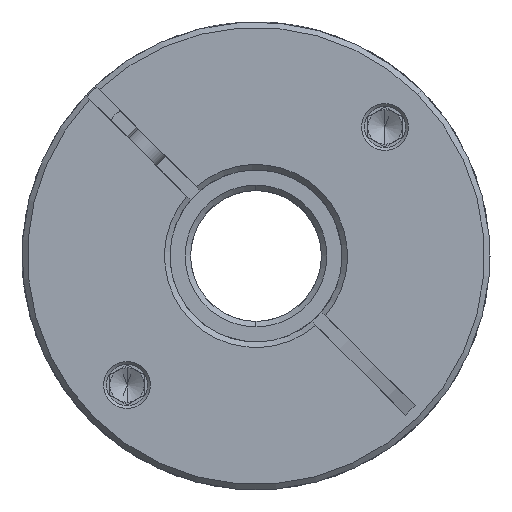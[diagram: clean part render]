
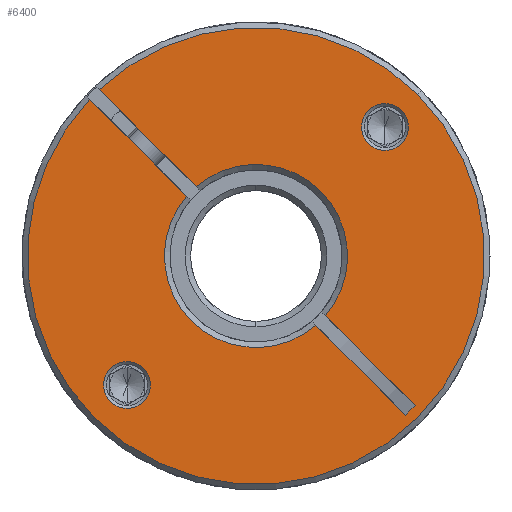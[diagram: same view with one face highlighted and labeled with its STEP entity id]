
A CAD part, front view. The second image highlights one B-rep face of the part: STEP entity #6400.
In plain terms, the highlighted planar face has unit normal (0, -1, 0).
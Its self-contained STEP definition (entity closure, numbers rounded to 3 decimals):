
#11 = DIRECTION ( 'NONE',  ( 0., -1., 0. ) ) ;
#51 = CARTESIAN_POINT ( 'NONE',  ( 18.407, -67.045, 89.142 ) ) ;
#107 = CIRCLE ( 'NONE', #4335, 33.2 ) ;
#349 = CARTESIAN_POINT ( 'NONE',  ( -19.069, -67.045, 51.666 ) ) ;
#399 = DIRECTION ( 'NONE',  ( 0.707, 0., 0.707 ) ) ;
#459 = ORIENTED_EDGE ( 'NONE', *, *, #10982, .T. ) ;
#585 = DIRECTION ( 'NONE',  ( -0.707, 0., -0.707 ) ) ;
#891 = VERTEX_POINT ( 'NONE', #11651 ) ;
#892 = EDGE_CURVE ( 'NONE', #8128, #16295, #5288, .T. ) ;
#1079 = EDGE_CURVE ( 'NONE', #16295, #17112, #13340, .T. ) ;
#1202 = CIRCLE ( 'NONE', #10937, 3.4 ) ;
#1265 = ORIENTED_EDGE ( 'NONE', *, *, #20402, .T. ) ;
#1423 = VECTOR ( 'NONE', #585, 1000. ) ;
#1654 = DIRECTION ( 'NONE',  ( 0.707, 0., 0.707 ) ) ;
#1907 = ORIENTED_EDGE ( 'NONE', *, *, #2288, .T. ) ;
#2219 = DIRECTION ( 'NONE',  ( 0.707, 0., 0.707 ) ) ;
#2288 = EDGE_CURVE ( 'NONE', #5162, #6962, #19531, .T. ) ;
#2353 = CIRCLE ( 'NONE', #12263, 13.3 ) ;
#2474 = AXIS2_PLACEMENT_3D ( 'NONE', #11533, #6613, #1654 ) ;
#2622 = VECTOR ( 'NONE', #21168, 1000. ) ;
#2691 = CARTESIAN_POINT ( 'NONE',  ( 16.003, -67.045, 86.738 ) ) ;
#2995 = DIRECTION ( 'NONE',  ( 0., 1., 0. ) ) ;
#3228 = DIRECTION ( 'NONE',  ( 0.707, 0., 0.707 ) ) ;
#3571 = LINE ( 'NONE', #9715, #15736 ) ;
#3871 = DIRECTION ( 'NONE',  ( 0., -1., 0. ) ) ;
#3958 = ORIENTED_EDGE ( 'NONE', *, *, #14006, .T. ) ;
#4335 = AXIS2_PLACEMENT_3D ( 'NONE', #17260, #17054, #7105 ) ;
#4454 = CARTESIAN_POINT ( 'NONE',  ( -26.908, -67.045, 90.758 ) ) ;
#4548 = DIRECTION ( 'NONE',  ( 0., 1., 0. ) ) ;
#4650 = DIRECTION ( 'NONE',  ( 0.707, 0., -0.707 ) ) ;
#5076 = DIRECTION ( 'NONE',  ( 0.707, 0., 0.707 ) ) ;
#5103 = CIRCLE ( 'NONE', #9267, 3.4 ) ;
#5162 = VERTEX_POINT ( 'NONE', #21545 ) ;
#5284 = ORIENTED_EDGE ( 'NONE', *, *, #5831, .F. ) ;
#5288 = LINE ( 'NONE', #11711, #11997 ) ;
#5433 = CARTESIAN_POINT ( 'NONE',  ( 18.988, -67.045, 44.862 ) ) ;
#5758 = AXIS2_PLACEMENT_3D ( 'NONE', #12184, #12111, #2219 ) ;
#5831 = EDGE_CURVE ( 'NONE', #11474, #6962, #3571, .T. ) ;
#5940 = CIRCLE ( 'NONE', #2474, 13.3 ) ;
#6315 = ORIENTED_EDGE ( 'NONE', *, *, #892, .T. ) ;
#6353 = EDGE_CURVE ( 'NONE', #20205, #19423, #14930, .T. ) ;
#6400 = ADVANCED_FACE ( 'NONE', ( #8580, #7271, #8559 ), #20617, .T. ) ;
#6433 = DIRECTION ( 'NONE',  ( 0.707, 0., 0.707 ) ) ;
#6578 = CARTESIAN_POINT ( 'NONE',  ( 16.003, -67.045, 86.738 ) ) ;
#6613 = DIRECTION ( 'NONE',  ( 0., 1., 0. ) ) ;
#6677 = ORIENTED_EDGE ( 'NONE', *, *, #9300, .T. ) ;
#6732 = DIRECTION ( 'NONE',  ( 0.707, 0., 0.707 ) ) ;
#6962 = VERTEX_POINT ( 'NONE', #19344 ) ;
#7028 = EDGE_LOOP ( 'NONE', ( #5284, #459, #18204, #12103, #21177, #21214, #1265, #6315, #10549, #10745, #1907 ) ) ;
#7105 = DIRECTION ( 'NONE',  ( 0.707, 0., 0.707 ) ) ;
#7271 = FACE_BOUND ( 'NONE', #7710, .T. ) ;
#7314 = ORIENTED_EDGE ( 'NONE', *, *, #11004, .T. ) ;
#7388 = EDGE_CURVE ( 'NONE', #19423, #10827, #2353, .T. ) ;
#7636 = CARTESIAN_POINT ( 'NONE',  ( 13.599, -67.045, 84.334 ) ) ;
#7710 = EDGE_LOOP ( 'NONE', ( #3958, #20189 ) ) ;
#7833 = EDGE_LOOP ( 'NONE', ( #6677, #7314 ) ) ;
#7977 = CARTESIAN_POINT ( 'NONE',  ( 7.35, -67.045, 59.329 ) ) ;
#8128 = VERTEX_POINT ( 'NONE', #7977 ) ;
#8559 = FACE_OUTER_BOUND ( 'NONE', #7028, .T. ) ;
#8580 = FACE_BOUND ( 'NONE', #7833, .T. ) ;
#8725 = DIRECTION ( 'NONE',  ( 0., -1., 0. ) ) ;
#8794 = DIRECTION ( 'NONE',  ( 0.707, 0., -0.707 ) ) ;
#8859 = CARTESIAN_POINT ( 'NONE',  ( -26.211, -67.045, 44.524 ) ) ;
#9066 = VERTEX_POINT ( 'NONE', #8859 ) ;
#9267 = AXIS2_PLACEMENT_3D ( 'NONE', #16720, #16795, #5076 ) ;
#9300 = EDGE_CURVE ( 'NONE', #15553, #20258, #1202, .T. ) ;
#9642 = DIRECTION ( 'NONE',  ( 0.707, 0., 0.707 ) ) ;
#9715 = CARTESIAN_POINT ( 'NONE',  ( -3.442, -67.045, 67.293 ) ) ;
#10106 = EDGE_CURVE ( 'NONE', #9066, #891, #107, .T. ) ;
#10217 = DIRECTION ( 'NONE',  ( 0.707, 0., -0.707 ) ) ;
#10323 = CARTESIAN_POINT ( 'NONE',  ( 18.988, -67.045, 44.862 ) ) ;
#10549 = ORIENTED_EDGE ( 'NONE', *, *, #1079, .T. ) ;
#10745 = ORIENTED_EDGE ( 'NONE', *, *, #12728, .F. ) ;
#10827 = VERTEX_POINT ( 'NONE', #21280 ) ;
#10897 = DIRECTION ( 'NONE',  ( 0.707, 0., 0.707 ) ) ;
#10937 = AXIS2_PLACEMENT_3D ( 'NONE', #2691, #4548, #10897 ) ;
#10982 = EDGE_CURVE ( 'NONE', #11474, #9066, #11479, .T. ) ;
#11004 = EDGE_CURVE ( 'NONE', #20258, #15553, #19282, .T. ) ;
#11474 = VERTEX_POINT ( 'NONE', #4454 ) ;
#11479 = CIRCLE ( 'NONE', #13049, 33.2 ) ;
#11533 = CARTESIAN_POINT ( 'NONE',  ( -2.735, -67.045, 68. ) ) ;
#11651 = CARTESIAN_POINT ( 'NONE',  ( 20.741, -67.045, 91.476 ) ) ;
#11711 = CARTESIAN_POINT ( 'NONE',  ( -2.028, -67.045, 68.707 ) ) ;
#11721 = AXIS2_PLACEMENT_3D ( 'NONE', #18669, #8725, #399 ) ;
#11997 = VECTOR ( 'NONE', #10217, 1000. ) ;
#12103 = ORIENTED_EDGE ( 'NONE', *, *, #15643, .T. ) ;
#12111 = DIRECTION ( 'NONE',  ( 0., 1., 0. ) ) ;
#12184 = CARTESIAN_POINT ( 'NONE',  ( -21.473, -67.045, 49.262 ) ) ;
#12263 = AXIS2_PLACEMENT_3D ( 'NONE', #14573, #21032, #9642 ) ;
#12412 = VERTEX_POINT ( 'NONE', #349 ) ;
#12516 = CARTESIAN_POINT ( 'NONE',  ( 20.402, -67.045, 46.277 ) ) ;
#12566 = VECTOR ( 'NONE', #8794, 1000. ) ;
#12728 = EDGE_CURVE ( 'NONE', #5162, #17112, #21295, .T. ) ;
#13049 = AXIS2_PLACEMENT_3D ( 'NONE', #20020, #11, #6732 ) ;
#13119 = DIRECTION ( 'NONE',  ( 0., 1., 0. ) ) ;
#13340 = LINE ( 'NONE', #5433, #1423 ) ;
#14006 = EDGE_CURVE ( 'NONE', #12412, #16711, #20255, .T. ) ;
#14400 = CIRCLE ( 'NONE', #11721, 33.2 ) ;
#14573 = CARTESIAN_POINT ( 'NONE',  ( -2.735, -67.045, 68. ) ) ;
#14637 = CARTESIAN_POINT ( 'NONE',  ( -3.442, -67.045, 67.293 ) ) ;
#14874 = AXIS2_PLACEMENT_3D ( 'NONE', #16204, #2995, #6433 ) ;
#14930 = LINE ( 'NONE', #17258, #12566 ) ;
#15113 = EDGE_CURVE ( 'NONE', #16711, #12412, #5103, .T. ) ;
#15553 = VERTEX_POINT ( 'NONE', #51 ) ;
#15643 = EDGE_CURVE ( 'NONE', #891, #20205, #14400, .T. ) ;
#15736 = VECTOR ( 'NONE', #4650, 1000. ) ;
#16107 = AXIS2_PLACEMENT_3D ( 'NONE', #20556, #3871, #18777 ) ;
#16204 = CARTESIAN_POINT ( 'NONE',  ( -2.735, -67.045, 68. ) ) ;
#16295 = VERTEX_POINT ( 'NONE', #12516 ) ;
#16711 = VERTEX_POINT ( 'NONE', #17434 ) ;
#16720 = CARTESIAN_POINT ( 'NONE',  ( -21.473, -67.045, 49.262 ) ) ;
#16795 = DIRECTION ( 'NONE',  ( 0., 1., 0. ) ) ;
#17054 = DIRECTION ( 'NONE',  ( 0., -1., 0. ) ) ;
#17112 = VERTEX_POINT ( 'NONE', #10323 ) ;
#17258 = CARTESIAN_POINT ( 'NONE',  ( -2.028, -67.045, 68.707 ) ) ;
#17260 = CARTESIAN_POINT ( 'NONE',  ( -2.735, -67.045, 68. ) ) ;
#17434 = CARTESIAN_POINT ( 'NONE',  ( -23.878, -67.045, 46.858 ) ) ;
#18204 = ORIENTED_EDGE ( 'NONE', *, *, #10106, .T. ) ;
#18312 = AXIS2_PLACEMENT_3D ( 'NONE', #6578, #13119, #3228 ) ;
#18669 = CARTESIAN_POINT ( 'NONE',  ( -2.735, -67.045, 68. ) ) ;
#18777 = DIRECTION ( 'NONE',  ( 0.707, 0., 0.707 ) ) ;
#19282 = CIRCLE ( 'NONE', #18312, 3.4 ) ;
#19344 = CARTESIAN_POINT ( 'NONE',  ( -12.82, -67.045, 76.671 ) ) ;
#19423 = VERTEX_POINT ( 'NONE', #20795 ) ;
#19531 = CIRCLE ( 'NONE', #14874, 13.3 ) ;
#20020 = CARTESIAN_POINT ( 'NONE',  ( -2.735, -67.045, 68. ) ) ;
#20189 = ORIENTED_EDGE ( 'NONE', *, *, #15113, .T. ) ;
#20205 = VERTEX_POINT ( 'NONE', #20873 ) ;
#20255 = CIRCLE ( 'NONE', #5758, 3.4 ) ;
#20258 = VERTEX_POINT ( 'NONE', #7636 ) ;
#20402 = EDGE_CURVE ( 'NONE', #10827, #8128, #5940, .T. ) ;
#20556 = CARTESIAN_POINT ( 'NONE',  ( -2.735, -67.045, 68. ) ) ;
#20617 = PLANE ( 'NONE',  #16107 ) ;
#20795 = CARTESIAN_POINT ( 'NONE',  ( -11.406, -67.045, 78.085 ) ) ;
#20873 = CARTESIAN_POINT ( 'NONE',  ( -25.493, -67.045, 92.172 ) ) ;
#21032 = DIRECTION ( 'NONE',  ( 0., 1., 0. ) ) ;
#21168 = DIRECTION ( 'NONE',  ( 0.707, 0., -0.707 ) ) ;
#21177 = ORIENTED_EDGE ( 'NONE', *, *, #6353, .T. ) ;
#21214 = ORIENTED_EDGE ( 'NONE', *, *, #7388, .T. ) ;
#21280 = CARTESIAN_POINT ( 'NONE',  ( 6.669, -67.045, 77.405 ) ) ;
#21295 = LINE ( 'NONE', #14637, #2622 ) ;
#21545 = CARTESIAN_POINT ( 'NONE',  ( 5.936, -67.045, 57.915 ) ) ;
